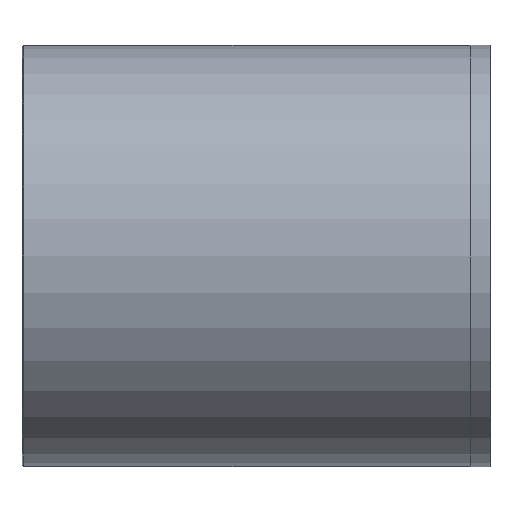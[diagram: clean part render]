
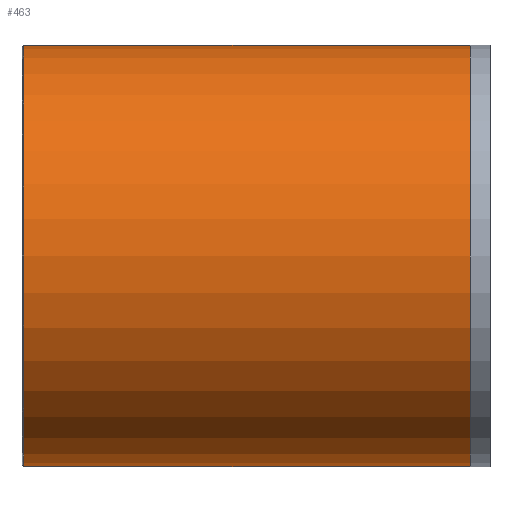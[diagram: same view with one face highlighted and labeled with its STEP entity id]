
A CAD part, left-side view. The second image highlights one B-rep face of the part: STEP entity #463.
In plain terms, the highlighted cylindrical face has radius 27 mm (diameter 54 mm), a partial arc.
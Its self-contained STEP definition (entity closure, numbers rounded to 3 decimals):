
#10 = VECTOR ( 'NONE', #505, 1000. ) ;
#31 = LINE ( 'NONE', #125, #10 ) ;
#60 = DIRECTION ( 'NONE',  ( 0., -1., 0. ) ) ;
#76 = DIRECTION ( 'NONE',  ( 0., 0., -1. ) ) ;
#117 = FACE_OUTER_BOUND ( 'NONE', #176, .T. ) ;
#125 = CARTESIAN_POINT ( 'NONE',  ( 0., 0., 27. ) ) ;
#142 = CARTESIAN_POINT ( 'NONE',  ( 0., 59.8, 27. ) ) ;
#159 = ORIENTED_EDGE ( 'NONE', *, *, #355, .T. ) ;
#176 = EDGE_LOOP ( 'NONE', ( #529, #159, #417, #240 ) ) ;
#189 = DIRECTION ( 'NONE',  ( 0., -1., 0. ) ) ;
#229 = CARTESIAN_POINT ( 'NONE',  ( 0., 2.5, 27. ) ) ;
#235 = DIRECTION ( 'NONE',  ( 0., -1., 0. ) ) ;
#236 = CARTESIAN_POINT ( 'NONE',  ( 0., 2.5, -27. ) ) ;
#240 = ORIENTED_EDGE ( 'NONE', *, *, #534, .F. ) ;
#246 = VERTEX_POINT ( 'NONE', #142 ) ;
#262 = VERTEX_POINT ( 'NONE', #236 ) ;
#286 = DIRECTION ( 'NONE',  ( 0., 0., -1. ) ) ;
#324 = EDGE_CURVE ( 'NONE', #246, #543, #31, .T. ) ;
#346 = CARTESIAN_POINT ( 'NONE',  ( 0., 59.8, -27. ) ) ;
#355 = EDGE_CURVE ( 'NONE', #246, #458, #375, .T. ) ;
#366 = EDGE_CURVE ( 'NONE', #458, #262, #489, .T. ) ;
#369 = CARTESIAN_POINT ( 'NONE',  ( 0., 2.5, 0. ) ) ;
#375 = CIRCLE ( 'NONE', #510, 27. ) ;
#378 = AXIS2_PLACEMENT_3D ( 'NONE', #537, #495, #286 ) ;
#403 = CARTESIAN_POINT ( 'NONE',  ( 0., 59.8, 0. ) ) ;
#410 = DIRECTION ( 'NONE',  ( 0., 0., 1. ) ) ;
#417 = ORIENTED_EDGE ( 'NONE', *, *, #366, .T. ) ;
#458 = VERTEX_POINT ( 'NONE', #346 ) ;
#461 = AXIS2_PLACEMENT_3D ( 'NONE', #369, #60, #76 ) ;
#463 = ADVANCED_FACE ( 'NONE', ( #117 ), #558, .T. ) ;
#465 = CARTESIAN_POINT ( 'NONE',  ( 0., 0., -27. ) ) ;
#489 = LINE ( 'NONE', #465, #572 ) ;
#495 = DIRECTION ( 'NONE',  ( 0., -1., 0. ) ) ;
#505 = DIRECTION ( 'NONE',  ( 0., -1., 0. ) ) ;
#510 = AXIS2_PLACEMENT_3D ( 'NONE', #403, #189, #410 ) ;
#529 = ORIENTED_EDGE ( 'NONE', *, *, #324, .F. ) ;
#534 = EDGE_CURVE ( 'NONE', #543, #262, #546, .T. ) ;
#537 = CARTESIAN_POINT ( 'NONE',  ( 0., 0., 0. ) ) ;
#543 = VERTEX_POINT ( 'NONE', #229 ) ;
#546 = CIRCLE ( 'NONE', #461, 27. ) ;
#558 = CYLINDRICAL_SURFACE ( 'NONE', #378, 27. ) ;
#572 = VECTOR ( 'NONE', #235, 1000. ) ;
